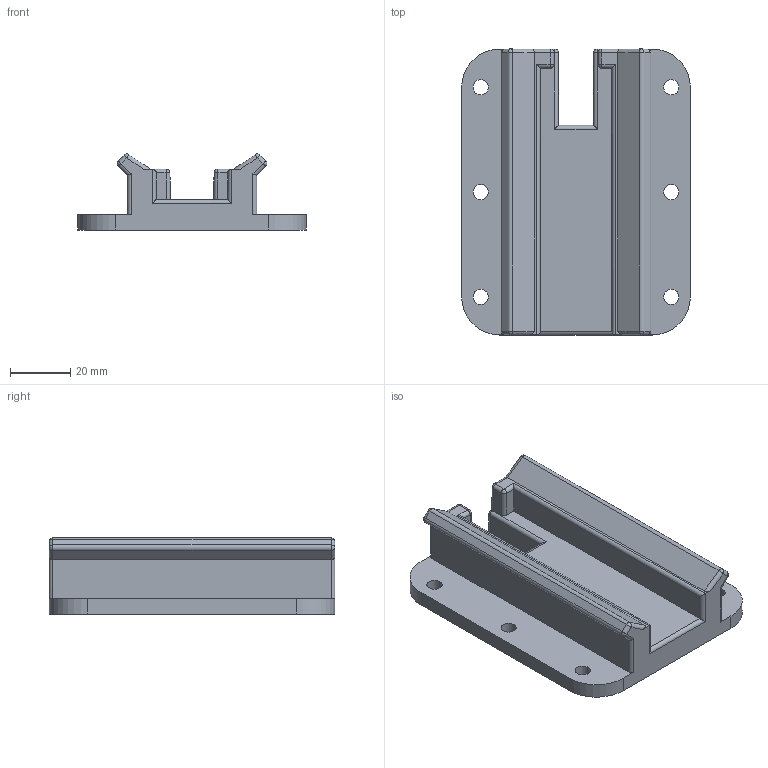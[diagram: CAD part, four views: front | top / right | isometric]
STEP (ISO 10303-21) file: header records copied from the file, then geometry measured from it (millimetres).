
FILE_DESCRIPTION(/* description */ (''),/* implementation_level */ '2;1');
FILE_NAME(/* name */ 'C:/Users/Chandler/Desktop/Gun Cad Drawings/Grip n Rip/Quickdraw V3 Micro Compacts v3/Quickdraw V3 Micro Compacts v3.step',/* time_stamp */ '2022-01-04T10:42:53-08:00',/* author */ (''),/* organization */ (''),/* preprocessor_version */ 'ST-DEVELOPER v18.1',/* originating_system */ 'Autodesk Translation Framework v10.10.0.1391',/* authorisation */ '');
FILE_SCHEMA (('AUTOMOTIVE_DESIGN { 1 0 10303 214 3 1 1 }'));
Length unit declared in the file: inch
Products named in the file (1): (Unsaved)
Bounding box: 76.2 x 95.25 x 25.33 mm (x, y, z)
Volume: 63840 mm3; surface area: 25418.7 mm2
Topology: 1 solids, 1 shells, 98 faces, 234 edges, 130 vertices
Faces by surface type: cylinder 54, plane 30, sphere 14
Full cylindrical faces by diameter (mm): 5.08 x6, 33.02 x2
Entity records: 2782 total; most frequent: DIRECTION 514, CARTESIAN_POINT 453, ORIENTED_EDGE 448, EDGE_CURVE 224, AXIS2_PLACEMENT_3D 191, LINE 132, VECTOR 132, VERTEX_POINT 130
